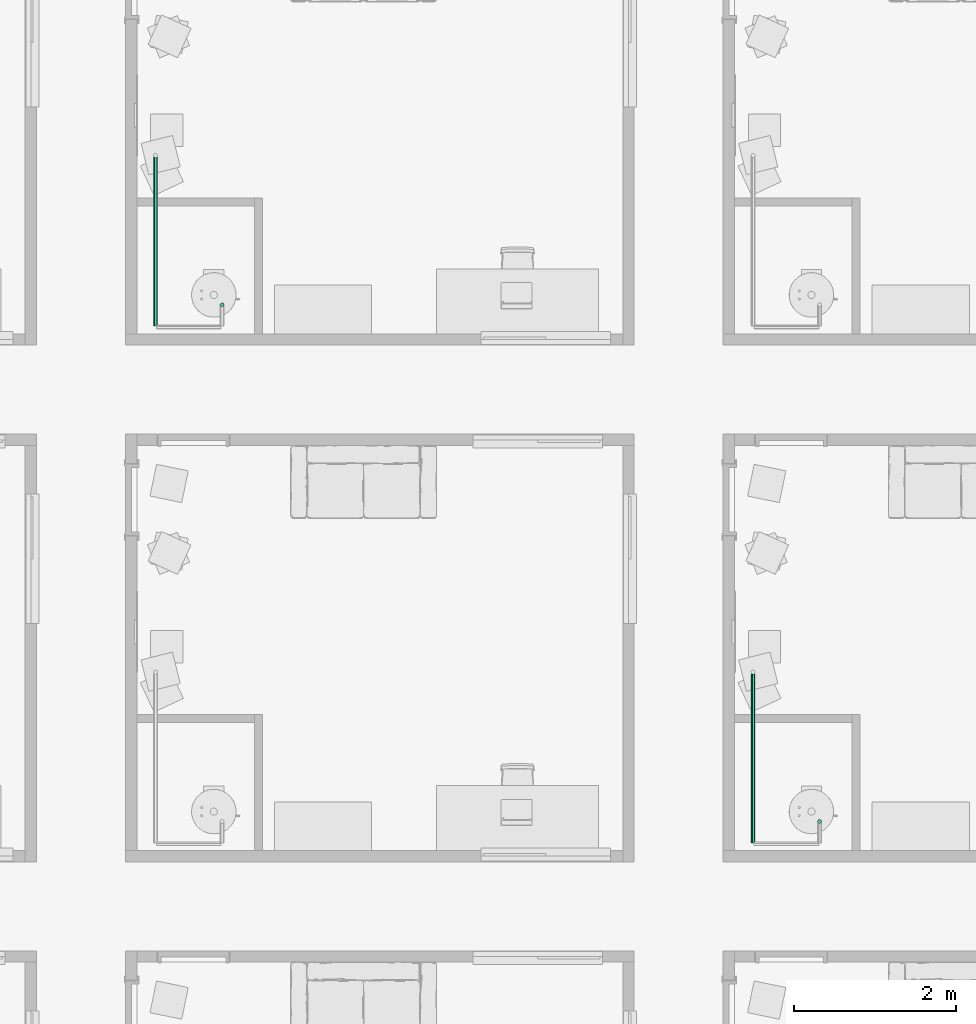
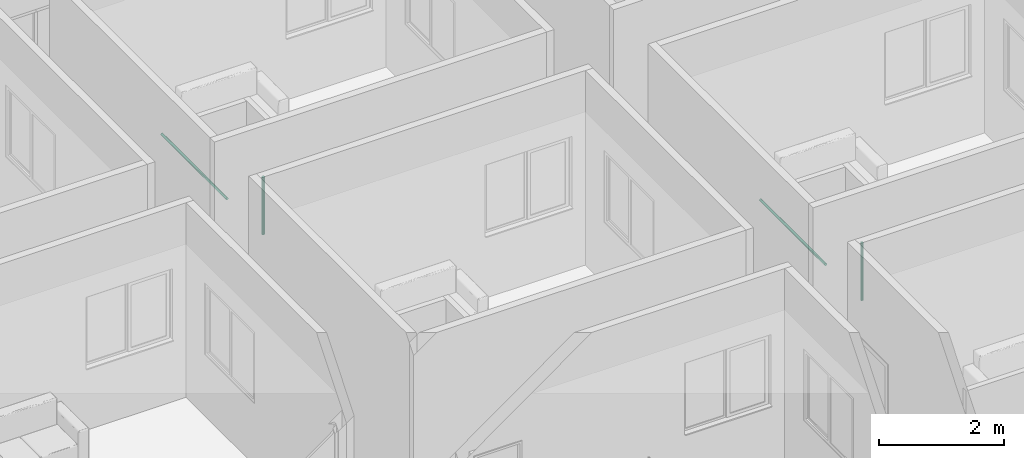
# One storey, part 38 of 71: 4 pipe segments.
"""IFC4 building model written with IfcOpenShell, lengths in centimetres."""

import ifcopenshell
import ifcopenshell.guid

model = None  # the IFC model being written
_history = None  # IfcOwnerHistory: only IFC2X3 demands one
_inside = {}  # id of a spatial element -> (the spatial element, [elements in it])
_under = {}  # id of a project, library or spatial element -> (it, [spatial elements below it])
_declared = {}  # id of a project -> (the project, [libraries it declares])
_typed = {}  # id of a type object -> (the type object, [elements of that type])
_made_of = {}  # id of a material, layer set ... -> (it, [elements and type objects made of it])


def new_model(schema):
    """Start an empty IFC model of exactly this schema.

    Asked for "IFC4X3", IfcOpenShell would pick the latest addendum, in which some entities
    have other attributes; the version numbers below select the first issue.
    IFC2X3 requires an IfcOwnerHistory on every rooted entity: one is made here for all.
    """
    global model, _history
    if schema == "IFC4X3":
        model = ifcopenshell.file(schema_version=(4, 3, 0, 0))
    else:
        model = ifcopenshell.file(schema=schema)
    _inside.clear()
    _under.clear()
    _declared.clear()
    _typed.clear()
    _made_of.clear()
    _history = None
    if model.schema == "IFC2X3":
        org = make("IfcOrganization", Name="unknown")
        user = make(
            "IfcPersonAndOrganization",
            ThePerson=make("IfcPerson", FamilyName="unknown"),
            TheOrganization=org,
        )
        app = make(
            "IfcApplication",
            ApplicationDeveloper=org,
            Version="unknown",
            ApplicationFullName="unknown",
            ApplicationIdentifier="unknown",
        )
        _history = make(
            "IfcOwnerHistory",
            OwningUser=user,
            OwningApplication=app,
            ChangeAction="ADDED",
            CreationDate=0,
        )
    return model


def make(cls, **values):
    """One entity of the class cls with the attributes given. An attribute that is None is left unset."""
    return model.create_entity(
        cls, **{name: value for name, value in values.items() if value is not None}
    )


def entity(cls, *values):
    """Any entity or typed value of the class cls, its attributes in the order of the schema. None: left unset."""
    e = model.create_entity(cls)
    for i, value in enumerate(values):
        if value is not None:
            e[i] = value
    return e


def rooted(cls, **values):
    """An entity with a GlobalId (a new one), such as an element, a storey or a relation."""
    return make(cls, GlobalId=ifcopenshell.guid.new(), OwnerHistory=_history, **values)


def si_unit(unit_type, name, prefix=None):
    """IfcSIUnit, for example si_unit("LENGTHUNIT", "METRE", prefix="MILLI")."""
    return make("IfcSIUnit", UnitType=unit_type, Prefix=prefix, Name=name)


def converted_unit(unit_type, name, factor, base, dimensions=None, offset=None):
    """IfcConversionBasedUnit, such as the inch: factor (a typed value) times the base unit."""
    return make(
        "IfcConversionBasedUnit"
        if offset is None
        else "IfcConversionBasedUnitWithOffset",
        ConversionOffset=offset,
        Dimensions=None
        if dimensions is None
        else entity("IfcDimensionalExponents", *dimensions),
        UnitType=unit_type,
        Name=name,
        ConversionFactor=make(
            "IfcMeasureWithUnit", ValueComponent=factor, UnitComponent=base
        ),
    )


def derived_unit(unit_type, elements):
    """IfcDerivedUnit: a product of units, each with its exponent."""
    return make(
        "IfcDerivedUnit",
        Elements=[
            make("IfcDerivedUnitElement", Unit=unit, Exponent=power)
            for unit, power in elements
        ],
        UnitType=unit_type,
    )


def assignment(units):
    """IfcUnitAssignment: the units of a project."""
    return None if units is None else make("IfcUnitAssignment", Units=units)


def point(xyz):
    """IfcCartesianPoint."""
    return None if xyz is None else make("IfcCartesianPoint", Coordinates=xyz)


def direction(xyz):
    """IfcDirection."""
    return None if xyz is None else make("IfcDirection", DirectionRatios=xyz)


def frame(location, z_axis=None, x_axis=None):
    """IfcAxis2Placement3D, a coordinate frame: its origin and axes. An axis left out is left unset."""
    return make(
        "IfcAxis2Placement3D",
        Location=point(location),
        Axis=direction(z_axis),
        RefDirection=direction(x_axis),
    )


def origin():
    """The frame at (0, 0, 0) with its axes left unset."""
    return frame((0.0, 0.0, 0.0))


def place(relative_to, where):
    """IfcLocalPlacement: puts the frame where relative to a parent placement (None: the world)."""
    return make(
        "IfcLocalPlacement", PlacementRelTo=relative_to, RelativePlacement=where
    )


def context(
    kind, dimensions, precision=None, world=None, true_north=None, identifier=None
):
    """IfcGeometricRepresentationContext, for example the 3D "Model" context."""
    return make(
        "IfcGeometricRepresentationContext",
        ContextIdentifier=identifier,
        ContextType=kind,
        CoordinateSpaceDimension=dimensions,
        Precision=precision,
        WorldCoordinateSystem=world,
        TrueNorth=true_north,
    )


def subcontext(parent, identifier, kind, view, scale=None):
    """IfcGeometricRepresentationSubContext, for example "Body" below "Model"."""
    return make(
        "IfcGeometricRepresentationSubContext",
        ContextIdentifier=identifier,
        ContextType=kind,
        ParentContext=parent,
        TargetScale=scale,
        TargetView=view,
    )


def project(units=None, contexts=None):
    """IfcProject with its units and contexts."""
    return rooted(
        "IfcProject",
        Name="project",
        RepresentationContexts=contexts,
        UnitsInContext=assignment(units),
    )


def spatial(cls, under=None, at=None, **own):
    """A site, building, storey or space (cls), placed at a placement, below another one or the project."""
    s = rooted(cls, ObjectPlacement=at, **own)
    if under is not None:
        _under.setdefault(under.id(), (under, []))[1].append(s)
    return s


def point_list(points):
    """IfcCartesianPointList2D or 3D."""
    cls = (
        "IfcCartesianPointList2D" if len(points[0]) == 2 else "IfcCartesianPointList3D"
    )
    return make(cls, CoordList=points)


def arc(*indices):
    """IfcArcIndex: an arc through three numbered points of an indexed curve."""
    return model.create_entity("IfcArcIndex", indices)


def indexed_curve(points, segments=None, self_intersect=None):
    """IfcIndexedPolyCurve: lines and arcs through numbered points (the first is 1)."""
    return make(
        "IfcIndexedPolyCurve",
        Points=point_list(points),
        Segments=segments,
        SelfIntersect=self_intersect,
    )


def outline(outer, holes=None, kind="AREA"):
    """IfcArbitraryClosedProfileDef: a profile drawn as a closed curve; with holes, ...WithVoids."""
    if holes is None:
        return make("IfcArbitraryClosedProfileDef", ProfileType=kind, OuterCurve=outer)
    return make(
        "IfcArbitraryProfileDefWithVoids",
        ProfileType=kind,
        OuterCurve=outer,
        InnerCurves=holes,
    )


def extrude(swept, where, along, depth):
    """IfcExtrudedAreaSolid: the profile swept, set in the frame where, extruded along a direction by depth."""
    return make(
        "IfcExtrudedAreaSolid",
        SweptArea=swept,
        Position=where,
        ExtrudedDirection=direction(along),
        Depth=depth,
    )


def shape(context_of_items, identifier, shape_type, items):
    """IfcShapeRepresentation: the items that make up one representation, for example the "Body"."""
    return make(
        "IfcShapeRepresentation",
        ContextOfItems=context_of_items,
        RepresentationIdentifier=identifier,
        RepresentationType=shape_type,
        Items=items,
    )


def made_of(thing, what):
    """Note that an element or type object is made of a material, layer set ...; save() writes the relation."""
    if what is not None:
        _made_of.setdefault(what.id(), (what, []))[1].append(thing)
    return thing


def type_object(cls, material=None, **own):
    """A type object (cls), such as IfcWallType, which elements share."""
    return made_of(rooted(cls, **own), material)


def element(
    cls,
    number,
    at=None,
    inside=None,
    cuts=None,
    type_object=None,
    material=None,
    context=None,
    identifier="Body",
    shape_type=None,
    held_by="IfcProductDefinitionShape",
    body=None,
    shapes=None,
    **own,
):
    """One element of the class cls, such as IfcWall. Its Tag is "e" and its number.

    at: its placement. inside: the storey or other place that contains it. cuts: it is an
    opening in that element (IfcRelVoidsElement). A single representation is given by context,
    identifier, shape_type and body (its items); several are given by shapes. held_by: the class
    of the entity that holds the representations. save() writes the other relations.
    """
    e = rooted(cls, Tag="e%d" % number, ObjectPlacement=at, **own)
    if body is not None:
        shapes = [shape(context, identifier, shape_type, body)]
    if shapes is not None:
        e.Representation = make(held_by, Representations=shapes)
    if inside is not None:
        _inside.setdefault(inside.id(), (inside, []))[1].append(e)
    if cuts is not None:
        rooted(
            "IfcRelVoidsElement", RelatingBuildingElement=cuts, RelatedOpeningElement=e
        )
    if type_object is not None:
        _typed.setdefault(type_object.id(), (type_object, []))[1].append(e)
    return made_of(e, material)


def aggregate(whole, parts):
    """IfcRelAggregates: a whole, such as a stair, and the parts it consists of."""
    return rooted("IfcRelAggregates", RelatingObject=whole, RelatedObjects=parts)


def save(model, path):
    """Write the relations noted so far, then the file.

    IfcRelAggregates (storeys below a building ...), IfcRelContainedInSpatialStructure (elements
    in a storey), IfcRelDefinesByType, IfcRelAssociatesMaterial and IfcRelDeclares: one each for
    every whole, place, type object, material and project.
    """
    for whole, parts in _under.values():
        aggregate(whole, parts)
    for where, things in _inside.values():
        rooted(
            "IfcRelContainedInSpatialStructure",
            RelatedElements=things,
            RelatingStructure=where,
        )
    for kind, things in _typed.values():
        rooted("IfcRelDefinesByType", RelatedObjects=things, RelatingType=kind)
    for what, things in _made_of.values():
        rooted("IfcRelAssociatesMaterial", RelatedObjects=things, RelatingMaterial=what)
    for by, libraries in _declared.values():
        rooted("IfcRelDeclares", RelatingContext=by, RelatedDefinitions=libraries)
    model.write(path)


model = new_model("IFC4")

# Units and contexts
model_context = context("Model", 3, precision=0.001, world=origin(), true_north=direction((6.123233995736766e-17, 1.0)))
body_context = subcontext(model_context, "Body", "Model", "MODEL_VIEW")
ifc_project = project(units=[si_unit("LENGTHUNIT", "METRE", prefix="CENTI"), si_unit("AREAUNIT", "SQUARE_METRE"), si_unit("VOLUMEUNIT", "CUBIC_METRE"), derived_unit("THERMALTRANSMITTANCEUNIT", [(si_unit("MASSUNIT", "GRAM", prefix="KILO"), 1), (si_unit("THERMODYNAMICTEMPERATUREUNIT", "KELVIN"), -1), (si_unit("TIMEUNIT", "SECOND"), -3)]), converted_unit("PLANEANGLEUNIT", "DEGREE", entity("IfcPlaneAngleMeasure", 0.017453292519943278), si_unit("PLANEANGLEUNIT", "RADIAN"), dimensions=[0, 0, 0, 0, 0, 0, 0]), derived_unit("MASSDENSITYUNIT", [(si_unit("MASSUNIT", "GRAM", prefix="KILO"), 1), (si_unit("LENGTHUNIT", "METRE"), -3)]), derived_unit("VAPORPERMEABILITYUNIT", [(si_unit("LENGTHUNIT", "METRE"), -1), (si_unit("TIMEUNIT", "SECOND"), 1)]), derived_unit("USERDEFINED", [(si_unit("MASSUNIT", "GRAM", prefix="KILO"), 1), (si_unit("TIMEUNIT", "SECOND"), -3), (si_unit("LENGTHUNIT", "METRE"), 3), (si_unit("ELECTRICCURRENTUNIT", "AMPERE"), -2)]), derived_unit("SPECIFICHEATCAPACITYUNIT", [(si_unit("THERMODYNAMICTEMPERATUREUNIT", "KELVIN"), -1), (si_unit("LENGTHUNIT", "METRE"), 2), (si_unit("TIMEUNIT", "SECOND"), -2)]), derived_unit("THERMALCONDUCTANCEUNIT", [(si_unit("MASSUNIT", "GRAM", prefix="KILO"), 1), (si_unit("THERMODYNAMICTEMPERATUREUNIT", "KELVIN"), -1), (si_unit("TIMEUNIT", "SECOND"), -3), (si_unit("LENGTHUNIT", "METRE"), 1)]), si_unit("PRESSUREUNIT", "PASCAL"), derived_unit("MODULUSOFELASTICITYUNIT", [(si_unit("MASSUNIT", "GRAM", prefix="KILO"), 1), (si_unit("LENGTHUNIT", "METRE"), -1), (si_unit("TIMEUNIT", "SECOND"), -2)]), derived_unit("THERMALEXPANSIONCOEFFICIENTUNIT", [(si_unit("THERMODYNAMICTEMPERATUREUNIT", "KELVIN"), -1)])], contexts=[model_context])

# Site, building, storey
site_placement = place(None, origin())
site = spatial("IfcSite", under=ifc_project, at=site_placement, Name="Default", CompositionType="ELEMENT")
building_placement = place(site_placement, origin())
building = spatial("IfcBuilding", under=site, at=building_placement, Name="IDS Escape Game Building", CompositionType="ELEMENT")
storey_placement = place(building_placement, frame((0.0, 0.0, 400.0)))
storey = spatial("IfcBuildingStorey", under=building, at=storey_placement, Name="01_First Floor", CompositionType="ELEMENT", Elevation=399.99999999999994)

# Pipe segments
pipe_segment_type = type_object("IfcPipeSegmentType", Name="Pipe Types:Piping Aluminum", PredefinedType="NOTDEFINED")
pipe_segment_1_placement = place(storey_placement, origin())
element("IfcPipeSegment", 1, at=pipe_segment_1_placement, inside=storey, type_object=pipe_segment_type, Name="Pipe Types:Piping Aluminum", ObjectType="Pipe Types:Piping Aluminum", PredefinedType="NOTDEFINED", context=body_context, shape_type="SweptSolid", body=[
    extrude(outline(indexed_curve([(2.4130000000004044, 0.0), (1.7062486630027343, 1.7062486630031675), (0.0, 2.412999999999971), (-1.7062486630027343, 1.7062486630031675), (-2.4130000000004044, 0.0), (-1.7062486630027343, -1.7062486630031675), (0.0, -2.412999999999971), (1.7062486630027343, -1.7062486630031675)], segments=[arc(1, 2, 3), arc(3, 4, 5), arc(5, 6, 7), arc(7, 8, 1)], self_intersect=False)), frame((4540.150000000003, 1962.9000000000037, 128.0), z_axis=(0.0, 0.0, 1.0), x_axis=(-1.0, 0.0, 0.0)), (0.0, 0.0, 1.0), 112.90000000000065),
])
pipe_segment_2_placement = place(storey_placement, origin())
element("IfcPipeSegment", 2, at=pipe_segment_2_placement, inside=storey, type_object=pipe_segment_type, Name="Pipe Types:Piping Aluminum", ObjectType="Pipe Types:Piping Aluminum", PredefinedType="NOTDEFINED", context=body_context, shape_type="SweptSolid", body=[
    extrude(outline(indexed_curve([(2.4130000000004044, 0.0), (1.7062486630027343, 1.7062486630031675), (0.0, 2.412999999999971), (-1.7062486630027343, 1.7062486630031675), (-2.4130000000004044, 0.0), (-1.7062486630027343, -1.7062486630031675), (0.0, -2.412999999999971), (1.7062486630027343, -1.7062486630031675)], segments=[arc(1, 2, 3), arc(3, 4, 5), arc(5, 6, 7), arc(7, 8, 1)], self_intersect=False)), frame((4458.046716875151, 1936.3648279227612, 242.0), z_axis=(0.0, 1.0, 0.0), x_axis=(1.0, 0.0, 0.0)), (0.0, 0.0, 1.0), 208.80000000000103),
])
pipe_segment_3_placement = place(storey_placement, origin())
element("IfcPipeSegment", 3, at=pipe_segment_3_placement, inside=storey, type_object=pipe_segment_type, Name="Pipe Types:Piping Aluminum", ObjectType="Pipe Types:Piping Aluminum", PredefinedType="NOTDEFINED", context=body_context, shape_type="SweptSolid", body=[
    extrude(outline(indexed_curve([(2.412999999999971, 0.0), (1.7062486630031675, 1.7062486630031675), (0.0, 2.412999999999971), (-1.7062486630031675, 1.7062486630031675), (-2.412999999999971, 0.0), (-1.7062486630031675, -1.7062486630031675), (0.0, -2.412999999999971), (1.7062486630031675, -1.7062486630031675)], segments=[arc(1, 2, 3), arc(3, 4, 5), arc(5, 6, 7), arc(7, 8, 1)], self_intersect=False)), frame((3802.150000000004, 2600.9000000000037, 128.0), z_axis=(0.0, 0.0, 1.0), x_axis=(-1.0, 0.0, 0.0)), (0.0, 0.0, 1.0), 112.90000000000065),
])
pipe_segment_4_placement = place(storey_placement, origin())
element("IfcPipeSegment", 4, at=pipe_segment_4_placement, inside=storey, type_object=pipe_segment_type, Name="Pipe Types:Piping Aluminum", ObjectType="Pipe Types:Piping Aluminum", PredefinedType="NOTDEFINED", context=body_context, shape_type="SweptSolid", body=[
    extrude(outline(indexed_curve([(2.412999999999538, 0.0), (1.7062486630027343, 1.7062486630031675), (-4.331468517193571e-13, 2.412999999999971), (-1.7062486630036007, 1.7062486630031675), (-2.4130000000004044, 0.0), (-1.7062486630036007, -1.7062486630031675), (-4.331468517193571e-13, -2.412999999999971), (1.7062486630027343, -1.7062486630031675)], segments=[arc(1, 2, 3), arc(3, 4, 5), arc(5, 6, 7), arc(7, 8, 1)], self_intersect=False)), frame((3720.0467168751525, 2574.3648279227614, 242.0), z_axis=(0.0, 1.0, 0.0), x_axis=(1.0, 0.0, 0.0)), (0.0, 0.0, 1.0), 208.80000000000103),
])

save(model, "model.ifc")
